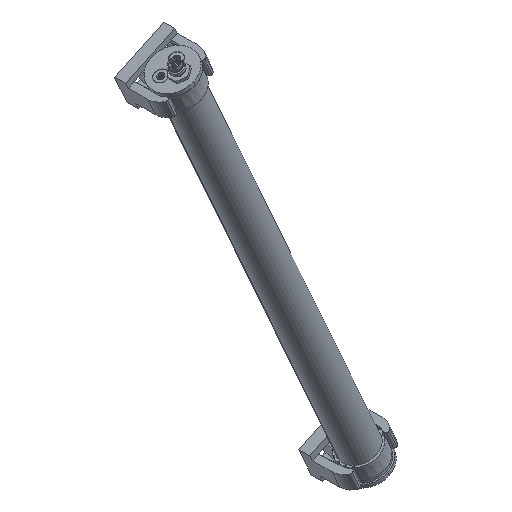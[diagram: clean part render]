
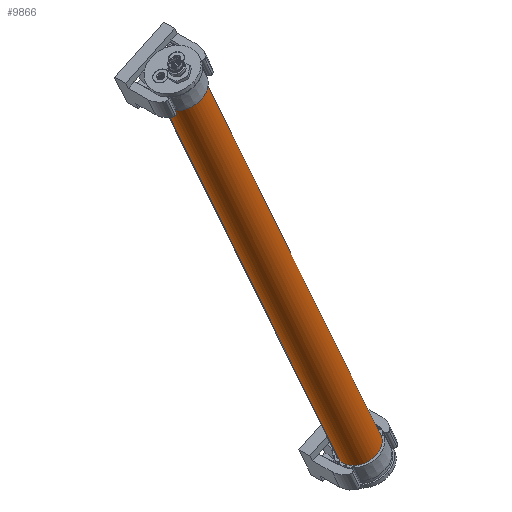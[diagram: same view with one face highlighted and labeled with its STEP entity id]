
A CAD part, isometric view. The second image highlights one B-rep face of the part: STEP entity #9866.
In plain terms, the highlighted cylindrical face has radius 11 mm (diameter 22 mm), a partial arc.
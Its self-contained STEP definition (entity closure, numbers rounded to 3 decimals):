
#1706=FACE_OUTER_BOUND('',#2250,.T.);
#2250=EDGE_LOOP('',(#8990,#8991,#8992,#8993));
#2409=CIRCLE('',#10095,11.);
#2578=CIRCLE('',#10389,11.);
#3347=LINE('',#20982,#3880);
#3348=LINE('',#20984,#3881);
#3880=VECTOR('',#13352,1.);
#3881=VECTOR('',#13355,1.);
#4065=VERTEX_POINT('',#14094);
#4066=VERTEX_POINT('',#14096);
#4270=VERTEX_POINT('',#15684);
#4271=VERTEX_POINT('',#15686);
#5054=EDGE_CURVE('',#4065,#4066,#2409,.T.);
#5381=EDGE_CURVE('',#4270,#4271,#2578,.T.);
#6204=EDGE_CURVE('',#4270,#4066,#3347,.T.);
#6205=EDGE_CURVE('',#4271,#4065,#3348,.T.);
#8990=ORIENTED_EDGE('',*,*,#6205,.F.);
#8991=ORIENTED_EDGE('',*,*,#5381,.F.);
#8992=ORIENTED_EDGE('',*,*,#6204,.T.);
#8993=ORIENTED_EDGE('',*,*,#5054,.F.);
#9383=CYLINDRICAL_SURFACE('',#10880,11.);
#9866=ADVANCED_FACE('',(#1706),#9383,.T.);
#10095=AXIS2_PLACEMENT_3D('',#14097,#11384,#11385);
#10389=AXIS2_PLACEMENT_3D('',#15687,#12039,#12040);
#10880=AXIS2_PLACEMENT_3D('',#20983,#13353,#13354);
#11384=DIRECTION('center_axis',(0.406,0.,
-0.914));
#11385=DIRECTION('ref_axis',(0.888,0.237,0.395));
#12039=DIRECTION('center_axis',(-0.406,0.,
0.914));
#12040=DIRECTION('ref_axis',(-0.893,0.212,-0.397));
#13352=DIRECTION('',(0.406,0.,-0.914));
#13353=DIRECTION('center_axis',(0.406,0.,
-0.914));
#13354=DIRECTION('ref_axis',(0.012,-1.,0.005));
#13355=DIRECTION('',(0.406,0.,-0.914));
#14094=CARTESIAN_POINT('',(251.846,23.125,197.108));
#14096=CARTESIAN_POINT('',(232.256,22.852,188.399));
#14097=CARTESIAN_POINT('Origin',(242.08,20.522,192.766));
#15684=CARTESIAN_POINT('',(112.829,22.852,457.05));
#15686=CARTESIAN_POINT('',(132.419,23.125,465.759));
#15687=CARTESIAN_POINT('Origin',(122.653,20.522,461.417));
#20982=CARTESIAN_POINT('',(112.829,22.852,457.05));
#20983=CARTESIAN_POINT('Origin',(469.966,20.522,-319.863));
#20984=CARTESIAN_POINT('',(132.419,23.125,465.759));
